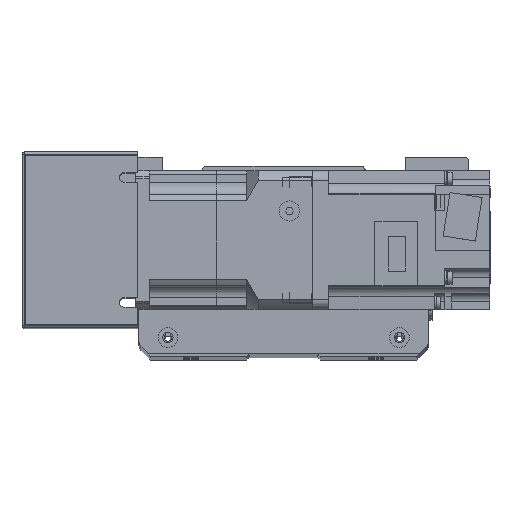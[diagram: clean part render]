
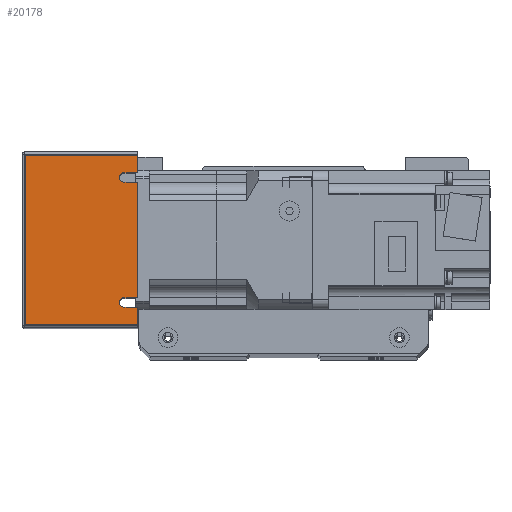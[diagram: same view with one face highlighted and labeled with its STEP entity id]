
A CAD part, top view. The second image highlights one B-rep face of the part: STEP entity #20178.
In plain terms, the highlighted planar face has unit normal (0, 0, 1) as drawn and (-1, 0, 0) by its records, which use the part's own axes.
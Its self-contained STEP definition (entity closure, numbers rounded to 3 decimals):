
#706=PLANE('',#22360);
#2036=LINE('',#34166,#3660);
#2045=LINE('',#34185,#3669);
#2052=LINE('',#34202,#3676);
#2060=LINE('',#34220,#3684);
#2073=LINE('',#34259,#3697);
#2078=LINE('',#34271,#3702);
#2082=LINE('',#34283,#3706);
#2085=LINE('',#34293,#3709);
#2086=LINE('',#34295,#3710);
#2087=LINE('',#34296,#3711);
#3660=VECTOR('',#27689,10.);
#3669=VECTOR('',#27702,10.);
#3676=VECTOR('',#27713,10.);
#3684=VECTOR('',#27725,10.);
#3697=VECTOR('',#27768,10.);
#3702=VECTOR('',#27779,10.);
#3706=VECTOR('',#27789,10.);
#3709=VECTOR('',#27800,10.);
#3710=VECTOR('',#27801,10.);
#3711=VECTOR('',#27802,10.);
#6058=FACE_OUTER_BOUND('',#7682,.T.);
#7682=EDGE_LOOP('',(#18123,#18124,#18125,#18126,#18127,#18128,#18129,#18130,
#18131,#18132,#18133,#18134));
#8834=CIRCLE('',#22338,2.);
#8839=CIRCLE('',#22346,2.);
#10535=VERTEX_POINT('',#34163);
#10536=VERTEX_POINT('',#34165);
#10542=VERTEX_POINT('',#34179);
#10544=VERTEX_POINT('',#34183);
#10551=VERTEX_POINT('',#34199);
#10552=VERTEX_POINT('',#34201);
#10559=VERTEX_POINT('',#34217);
#10560=VERTEX_POINT('',#34219);
#10571=VERTEX_POINT('',#34257);
#10580=VERTEX_POINT('',#34282);
#10583=VERTEX_POINT('',#34292);
#10584=VERTEX_POINT('',#34294);
#13098=EDGE_CURVE('',#10536,#10535,#2036,.T.);
#13107=EDGE_CURVE('',#10542,#10544,#2045,.T.);
#13114=EDGE_CURVE('',#10552,#10551,#2052,.T.);
#13122=EDGE_CURVE('',#10560,#10559,#2060,.T.);
#13128=EDGE_CURVE('',#10544,#10536,#8834,.T.);
#13139=EDGE_CURVE('',#10559,#10552,#8839,.T.);
#13144=EDGE_CURVE('',#10571,#10551,#2073,.T.);
#13151=EDGE_CURVE('',#10560,#10535,#2078,.T.);
#13157=EDGE_CURVE('',#10542,#10580,#2082,.T.);
#13162=EDGE_CURVE('',#10583,#10571,#2085,.T.);
#13163=EDGE_CURVE('',#10584,#10583,#2086,.T.);
#13164=EDGE_CURVE('',#10580,#10584,#2087,.T.);
#18123=ORIENTED_EDGE('',*,*,#13098,.T.);
#18124=ORIENTED_EDGE('',*,*,#13151,.F.);
#18125=ORIENTED_EDGE('',*,*,#13122,.T.);
#18126=ORIENTED_EDGE('',*,*,#13139,.T.);
#18127=ORIENTED_EDGE('',*,*,#13114,.T.);
#18128=ORIENTED_EDGE('',*,*,#13144,.F.);
#18129=ORIENTED_EDGE('',*,*,#13162,.F.);
#18130=ORIENTED_EDGE('',*,*,#13163,.F.);
#18131=ORIENTED_EDGE('',*,*,#13164,.F.);
#18132=ORIENTED_EDGE('',*,*,#13157,.F.);
#18133=ORIENTED_EDGE('',*,*,#13107,.T.);
#18134=ORIENTED_EDGE('',*,*,#13128,.T.);
#20178=ADVANCED_FACE('',(#6058),#706,.T.);
#22338=AXIS2_PLACEMENT_3D('',#34232,#27735,#27736);
#22346=AXIS2_PLACEMENT_3D('',#34250,#27757,#27758);
#22360=AXIS2_PLACEMENT_3D('',#34291,#27798,#27799);
#27689=DIRECTION('',(0.,0.,1.));
#27702=DIRECTION('',(0.,0.,-1.));
#27713=DIRECTION('',(0.,0.,1.));
#27725=DIRECTION('',(0.,0.,-1.));
#27735=DIRECTION('center_axis',(1.,0.,0.));
#27736=DIRECTION('ref_axis',(0.,0.,1.));
#27757=DIRECTION('center_axis',(1.,0.,0.));
#27758=DIRECTION('ref_axis',(0.,0.,1.));
#27768=DIRECTION('',(0.,-1.,0.));
#27779=DIRECTION('',(0.,-1.,0.));
#27789=DIRECTION('',(0.,-1.,0.));
#27798=DIRECTION('center_axis',(-1.,0.,0.));
#27799=DIRECTION('ref_axis',(0.,-1.,0.));
#27800=DIRECTION('',(0.,0.,1.));
#27801=DIRECTION('',(0.,1.,0.));
#27802=DIRECTION('',(0.,0.,-1.));
#34163=CARTESIAN_POINT('',(-91.,-25.,25.));
#34165=CARTESIAN_POINT('',(-91.,-25.,19.));
#34166=CARTESIAN_POINT('',(-91.,-25.,9.5));
#34179=CARTESIAN_POINT('',(-91.,-29.,25.));
#34183=CARTESIAN_POINT('',(-91.,-29.,19.));
#34185=CARTESIAN_POINT('',(-91.,-29.,15.178));
#34199=CARTESIAN_POINT('',(-91.,29.,25.));
#34201=CARTESIAN_POINT('',(-91.,29.,19.));
#34202=CARTESIAN_POINT('',(-91.,29.,9.5));
#34217=CARTESIAN_POINT('',(-91.,25.,19.));
#34219=CARTESIAN_POINT('',(-91.,25.,25.));
#34220=CARTESIAN_POINT('',(-91.,25.,15.178));
#34232=CARTESIAN_POINT('Origin',(-91.,-27.,19.));
#34250=CARTESIAN_POINT('Origin',(-91.,27.,19.));
#34257=CARTESIAN_POINT('',(-91.,37.,25.));
#34259=CARTESIAN_POINT('',(-91.,-38.,25.));
#34271=CARTESIAN_POINT('',(-91.,-38.,25.));
#34282=CARTESIAN_POINT('',(-91.,-37.,25.));
#34283=CARTESIAN_POINT('',(-91.,-38.,25.));
#34291=CARTESIAN_POINT('Origin',(-91.,38.,0.));
#34292=CARTESIAN_POINT('',(-91.,37.,-24.));
#34293=CARTESIAN_POINT('',(-91.,37.,0.));
#34294=CARTESIAN_POINT('',(-91.,-37.,-24.));
#34295=CARTESIAN_POINT('',(-91.,19.,-24.));
#34296=CARTESIAN_POINT('',(-91.,-37.,0.));
